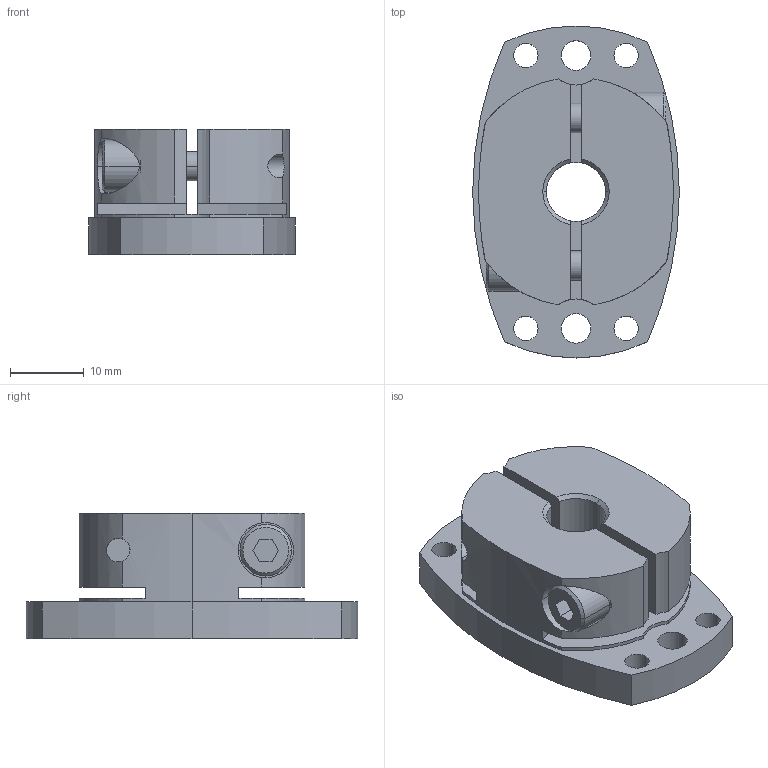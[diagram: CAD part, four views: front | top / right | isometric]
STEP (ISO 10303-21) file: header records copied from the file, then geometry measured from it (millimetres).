
FILE_DESCRIPTION((''),'2;1');
FILE_NAME('SHDB-45B-8.stp','2026-01-27T12:38:43',(''),(''),'AutoCAD STEP 2000i','AutoCAD 2000i',', , ');
FILE_SCHEMA(('CONFIG_CONTROL_DESIGN'));
Length unit declared in the file: millimetre
Products named in the file (2): SHDB-45B-10; 忣兜1
Assembly tree (1 placements, depth 2):
  SHDB-45B-10
    忣兜1
Bounding box: 28 x 45 x 17 mm (x, y, z)
Volume: 11474.1 mm3; surface area: 6086.7 mm2
Topology: 1 solids, 1 shells, 102 faces, 280 edges, 184 vertices
Faces by surface type: cylinder 58, plane 34, cone 10
Entity records: 3657 total; most frequent: CARTESIAN_POINT 834, DIRECTION 598, ORIENTED_EDGE 560, EDGE_CURVE 280, AXIS2_PLACEMENT_3D 234, VERTEX_POINT 184, VECTOR 130, LINE 130
